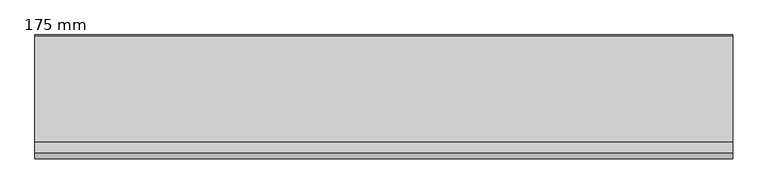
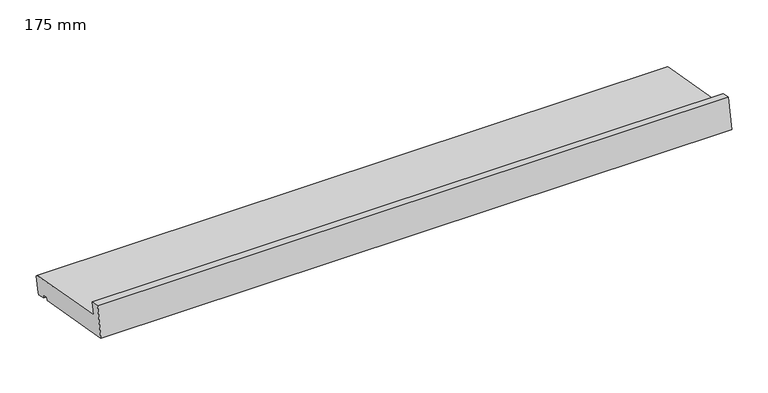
"""IFC4 building model written with IfcOpenShell, lengths in millimetres: proxy geometry, 400_35_NS_raamdorpel_natuursteen_klik : 175 mm."""

from ifc_helpers import new_model, si_unit, frame, origin, place, context, project, spatial, polyline, outline, extrude, source, transform, mapped, element, save


def proxy_175_mm_28cd4d07(model_context):
    return source(origin(), model_context, "Body", "SweptSolid", [
        extrude(outline(polyline([(175.5811866, -0.4969021), (177.2035058, -2.813814), (172.6886531, -28.4188156), (170.3717413, -30.0411347), (157.5692405, -27.7837084), (158.4374814, -22.8596697), (148.5894038, -21.1231879), (147.721163, -26.0472267), (0.0, 0.0), (8.6824089, 49.2403877), (23.4545252, 46.635665), (19.9815616, 26.9395099), (175.5811866, -0.4969021)])), frame((-500.0, 0.0, 0.0), z_axis=(1.0, 0.0, 0.0), x_axis=(0.0, 1.0, 0.0)), (0.0, 0.0, 1.0), 1000.0),
    ])


if __name__ == "__main__":
    model = new_model("IFC4")
    model_context = context("Model", 3, world=origin())
    ifc_project = project(units=[si_unit("LENGTHUNIT", "METRE", prefix="MILLI")], contexts=[model_context])
    site = spatial("IfcSite", under=ifc_project)
    building = spatial("IfcBuilding", under=site)
    placement = place(None, origin())
    proxy_175_mm_shape = proxy_175_mm_28cd4d07(model_context)
    element("IfcBuildingElementProxy", 1, Name="400_35_NS_raamdorpel_natuursteen_klik : 175 mm", ObjectType="400_35_NS_raamdorpel_natuursteen_klik : 175 mm", at=placement, inside=building, context=model_context, shape_type="MappedRepresentation", body=[
        mapped(proxy_175_mm_shape, transform((0.0, 0.0, 0.0), x_axis=(1.0, 0.0, 0.0), y_axis=(0.0, 1.0, 0.0), z_axis=(0.0, 0.0, 1.0))),
    ])
    save(model, "model.ifc")
